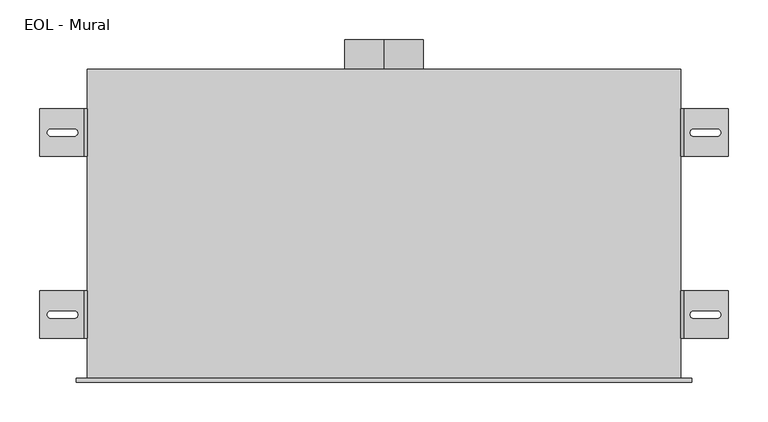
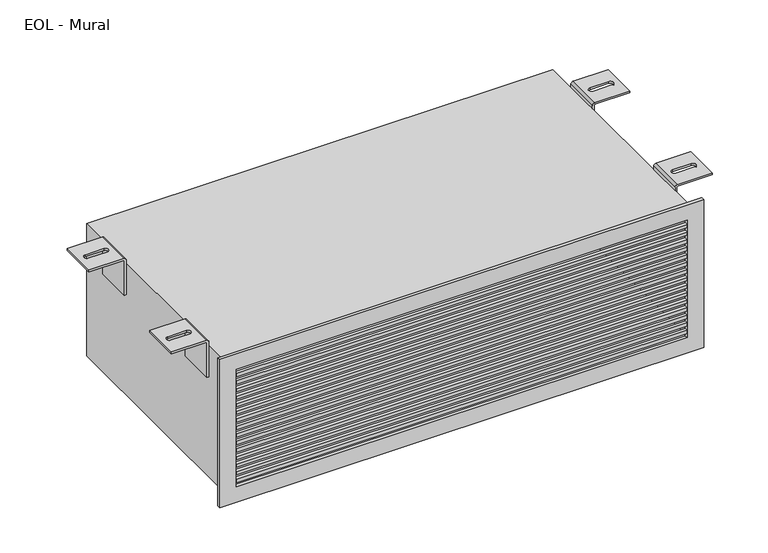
"""IFC4 building model written with IfcOpenShell, lengths in millimetres: air terminal geometry, EOL - Mural : EOL-M100-750x225-2."""

from ifc_helpers import new_model, si_unit, point, frame, origin, origin_2d, place, context, project, spatial, polyline, circle_curve, ellipse_curve, trimmed, segment, composite_curve, outline, extrude, source, transform, mapped, element, save
from ifc_brep_helpers import plane_surface, cylinder_surface, revolved_surface, extruded_surface, advanced_brep


def eol_mural_11de79c1(model_context):
    return source(origin(), model_context, "Body", "SolidModel", [
        advanced_brep(
        [(379.0013366, 110.0, 121.5), (435.0, 110.0, 121.5), (435.0, 110.0, 118.5), (379.0, 110.0, 118.5), (378.0, 110.0, 117.5), (378.0, 110.0, 58.5), (375.0, 110.0, 58.5), (375.0, 110.0, 117.4986634), (379.0013366, 50.0, 121.5), (375.0, 50.0, 117.4986634), (375.0, 50.0, 58.5), (378.0, 50.0, 58.5), (378.0, 50.0, 117.5), (379.0, 50.0, 118.5), (435.0, 50.0, 118.5), (435.0, 50.0, 121.5), (421.0287952, 75.4804328, 121.5), (391.0287952, 75.4804328, 121.5), (391.0287952, 84.4804328, 121.5), (421.0287952, 84.4804328, 121.5), (391.0287952, 75.4804328, 118.5), (421.0287952, 75.4804328, 118.5), (421.0287952, 84.4804328, 118.5), (391.0287952, 84.4804328, 118.5)],
        [
            (0, 1),
            (1, 2),
            (2, 3),
            (3, 4, circle_curve(frame((379.0, 110.0, 117.5), z_axis=(0.0, -1.0, 0.0), x_axis=(-1.0000000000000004, 0.0, 0.0)), 1.0)),
            (4, 5),
            (5, 6),
            (6, 7),
            (7, 0, circle_curve(frame((379.0013366, 110.0, 117.4986634), z_axis=(0.0, 1.0, 0.0), x_axis=(-1.0000000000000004, 0.0, 0.0)), 4.0013366)),
            (8, 9, circle_curve(frame((379.0013366, 50.0, 117.4986634), z_axis=(0.0, -1.0, 0.0), x_axis=(-1.0000000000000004, 0.0, 0.0)), 4.0013366)),
            (9, 10),
            (10, 11),
            (11, 12),
            (12, 13, circle_curve(frame((379.0, 50.0, 117.5), z_axis=(0.0, 1.0, 0.0), x_axis=(-1.0000000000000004, 0.0, 0.0)), 1.0)),
            (13, 14),
            (14, 15),
            (15, 8),
            (0, 8),
            (15, 1),
            (16, 17),
            (17, 18, circle_curve(frame((391.0287952, 79.9804328, 121.5), z_axis=(0.0, 0.0, -1.0), x_axis=(0.0, -1.0, 0.0)), 4.5)),
            (18, 19),
            (19, 16, circle_curve(frame((421.0287952, 79.9804328, 121.5), z_axis=(0.0, 0.0, -1.0), x_axis=(0.0, -1.0, 0.0)), 4.5)),
            (14, 2),
            (13, 3),
            (20, 21),
            (21, 22, ellipse_curve(frame((421.0287952, 79.9804328, 118.5), z_axis=(0.0, 0.0, 1.0), x_axis=(0.0, -1.0, 0.0)), 4.5, 4.5)),
            (22, 23),
            (23, 20, ellipse_curve(frame((391.0287952, 79.9804328, 118.5), z_axis=(0.0, 0.0, 1.0), x_axis=(0.0, -1.0, 0.0)), 4.5, 4.5)),
            (12, 4),
            (11, 5),
            (10, 6),
            (9, 7),
            (16, 21),
            (20, 17),
            (19, 22),
            (18, 23),
        ],
        [
            plane_surface(frame((435.0, 110.0, 121.5), z_axis=(0.0, 1.0, 0.0), x_axis=(1.0, 0.0, 0.0))),
            plane_surface(frame((435.0, 50.0, 121.5), z_axis=(0.0, -1.0, 0.0), x_axis=(-1.0, 0.0, 0.0))),
            plane_surface(frame((379.0013366, 110.0, 121.5), z_axis=(0.0, 0.0, 1.0), x_axis=(0.0, -1.0, 0.0))),
            plane_surface(frame((435.0, 110.0, 121.5), z_axis=(1.0, 0.0, 0.0), x_axis=(0.0, -1.0, 0.0))),
            plane_surface(frame((435.0, 110.0, 118.5), z_axis=(0.0, 0.0, -1.0), x_axis=(0.0, -1.0, 0.0))),
            revolved_surface(polyline([(378.0, 50.0, 117.5), (378.0, 110.00000000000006, 117.5)]), (379.0, 50.0, 117.5), (0.0, -1.0000000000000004, 0.0)),
            plane_surface(frame((378.0, 110.0, 117.5), z_axis=(1.0, 0.0, 0.0), x_axis=(0.0, -1.0, 0.0))),
            plane_surface(frame((378.0, 110.0, 58.5), z_axis=(0.0, 0.0, -1.0), x_axis=(0.0, -1.0, 0.0))),
            plane_surface(frame((375.0, 110.0, 58.5), z_axis=(-1.0, 0.0, 0.0), x_axis=(0.0, -1.0, 0.0))),
            cylinder_surface(frame((379.0013366, 50.0, 117.4986634), z_axis=(0.0, 1.0000000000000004, 0.0), x_axis=(-1.0000000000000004, 0.0, 0.0)), 4.0013366),
            plane_surface(frame((391.0287952, 75.4804328, 121.5), z_axis=(0.0, 1.0, 0.0), x_axis=(0.0, 0.0, -1.0))),
            extruded_surface(trimmed(ellipse_curve(frame((421.0287952, 79.9804328, 118.5), z_axis=(0.0, 0.0, 1.0), x_axis=(0.0, -1.0, 0.0)), 4.5, 4.5), [point((421.0287952, 75.4804328, 118.5))], [point((421.0287952, 84.4804328, 118.5))], True, "CARTESIAN"), (0.0, 0.0, -3.0), 3.0),
            plane_surface(frame((421.0287952, 84.4804328, 121.5), z_axis=(0.0, -1.0, 0.0), x_axis=(0.0, 0.0, -1.0))),
            extruded_surface(trimmed(ellipse_curve(frame((391.0287952, 79.9804328, 118.5), z_axis=(0.0, 0.0, 1.0), x_axis=(0.0, -1.0, 0.0)), 4.5, 4.5), [point((391.0287952, 84.4804328, 118.5))], [point((391.0287952, 75.4804328, 118.5))], True, "CARTESIAN"), (0.0, 0.0, -3.0), 3.0),
        ],
        [
            (0, [[1, 2, 3, 4, 5, 6, 7, 8]]),
            (1, [[9, 10, 11, 12, 13, 14, 15, 16]]),
            (2, [[-1, 17, -16, 18], [19, 20, 21, 22]]),
            (3, [[-2, -18, -15, 23]]),
            (4, [[-3, -23, -14, 24], [25, 26, 27, 28]]),
            (5, [[-4, -24, -13, 29]]),
            (6, [[-5, -29, -12, 30]]),
            (7, [[-6, -30, -11, 31]]),
            (8, [[-7, -31, -10, 32]]),
            (9, [[-8, -32, -9, -17]]),
            (10, [[33, -25, 34, -19]]),
            (11, [[-33, -22, 35, -26]]),
            (12, [[-35, -21, 36, -27]]),
            (13, [[-34, -28, -36, -20]]),
        ],
    ),
        advanced_brep(
        [(379.0013366, 340.0, 121.5), (435.0, 340.0, 121.5), (435.0, 340.0, 118.5), (379.0, 340.0, 118.5), (378.0, 340.0, 117.5), (378.0, 340.0, 58.5), (375.0, 340.0, 58.5), (375.0, 340.0, 117.4986634), (379.0013366, 280.0, 121.5), (375.0, 280.0, 117.4986634), (375.0, 280.0, 58.5), (378.0, 280.0, 58.5), (378.0, 280.0, 117.5), (379.0, 280.0, 118.5), (435.0, 280.0, 118.5), (435.0, 280.0, 121.5), (421.0287952, 305.4804328, 121.5), (391.0287952, 305.4804328, 121.5), (391.0287952, 314.4804328, 121.5), (421.0287952, 314.4804328, 121.5), (391.0287952, 305.4804328, 118.5), (421.0287952, 305.4804328, 118.5), (421.0287952, 314.4804328, 118.5), (391.0287952, 314.4804328, 118.5)],
        [
            (0, 1),
            (1, 2),
            (2, 3),
            (3, 4, circle_curve(frame((379.0, 340.0, 117.5), z_axis=(0.0, -1.0, 0.0), x_axis=(-1.0, 0.0, 0.0)), 1.0)),
            (4, 5),
            (5, 6),
            (6, 7),
            (7, 0, circle_curve(frame((379.0013366, 340.0, 117.4986634), z_axis=(0.0, 1.0, 0.0), x_axis=(-1.0, 0.0, 0.0)), 4.0013366)),
            (8, 9, circle_curve(frame((379.0013366, 280.0, 117.4986634), z_axis=(0.0, -1.0, 0.0), x_axis=(-1.0, 0.0, 0.0)), 4.0013366)),
            (9, 10),
            (10, 11),
            (11, 12),
            (12, 13, circle_curve(frame((379.0, 280.0, 117.5), z_axis=(0.0, 1.0, 0.0), x_axis=(-1.0, 0.0, 0.0)), 1.0)),
            (13, 14),
            (14, 15),
            (15, 8),
            (0, 8),
            (15, 1),
            (16, 17),
            (17, 18, circle_curve(frame((391.0287952, 309.9804328, 121.5), z_axis=(0.0, 0.0, -1.0), x_axis=(0.0, -1.0, 0.0)), 4.5)),
            (18, 19),
            (19, 16, circle_curve(frame((421.0287952, 309.9804328, 121.5), z_axis=(0.0, 0.0, -1.0), x_axis=(0.0, -1.0, 0.0)), 4.5)),
            (14, 2),
            (13, 3),
            (20, 21),
            (21, 22, ellipse_curve(frame((421.0287952, 309.9804328, 118.5), z_axis=(0.0, 0.0, 1.0), x_axis=(0.0, -1.0, 0.0)), 4.5, 4.5)),
            (22, 23),
            (23, 20, ellipse_curve(frame((391.0287952, 309.9804328, 118.5), z_axis=(0.0, 0.0, 1.0), x_axis=(0.0, -1.0, 0.0)), 4.5, 4.5)),
            (12, 4),
            (11, 5),
            (10, 6),
            (9, 7),
            (16, 21),
            (20, 17),
            (19, 22),
            (18, 23),
        ],
        [
            plane_surface(frame((435.0, 340.0, 121.5), z_axis=(0.0, 1.0, 0.0), x_axis=(1.0, 0.0, 0.0))),
            plane_surface(frame((435.0, 280.0, 121.5), z_axis=(0.0, -1.0, 0.0), x_axis=(-1.0, 0.0, 0.0))),
            plane_surface(frame((379.0013366, 340.0, 121.5), z_axis=(0.0, 0.0, 1.0), x_axis=(0.0, -1.0, 0.0))),
            plane_surface(frame((435.0, 340.0, 121.5), z_axis=(1.0, 0.0, 0.0), x_axis=(0.0, -1.0, 0.0))),
            plane_surface(frame((435.0, 340.0, 118.5), z_axis=(0.0, 0.0, -1.0), x_axis=(0.0, -1.0, 0.0))),
            revolved_surface(polyline([(378.0, 280.0, 117.5), (378.0, 340.0, 117.5)]), (379.0, 280.0, 117.5), (0.0, -1.0, 0.0)),
            plane_surface(frame((378.0, 340.0, 117.5), z_axis=(1.0, 0.0, 0.0), x_axis=(0.0, -1.0, 0.0))),
            plane_surface(frame((378.0, 340.0, 58.5), z_axis=(0.0, 0.0, -1.0), x_axis=(0.0, -1.0, 0.0))),
            plane_surface(frame((375.0, 340.0, 58.5), z_axis=(-1.0, 0.0, 0.0), x_axis=(0.0, -1.0, 0.0))),
            cylinder_surface(frame((379.0013366, 280.0, 117.4986634), z_axis=(0.0, 1.0, 0.0), x_axis=(-1.0, 0.0, 0.0)), 4.0013366),
            plane_surface(frame((391.0287952, 305.4804328, 121.5), z_axis=(0.0, 1.0, 0.0), x_axis=(0.0, 0.0, -1.0))),
            extruded_surface(trimmed(ellipse_curve(frame((421.0287952, 309.9804328, 118.5), z_axis=(0.0, 0.0, 1.0), x_axis=(0.0, -1.0, 0.0)), 4.5, 4.5), [point((421.0287952, 305.4804328, 118.5))], [point((421.0287952, 314.4804328, 118.5))], True, "CARTESIAN"), (0.0, 0.0, -3.0), 3.0),
            plane_surface(frame((421.0287952, 314.4804328, 121.5), z_axis=(0.0, -1.0, 0.0), x_axis=(0.0, 0.0, -1.0))),
            extruded_surface(trimmed(ellipse_curve(frame((391.0287952, 309.9804328, 118.5), z_axis=(0.0, 0.0, 1.0), x_axis=(0.0, -1.0, 0.0)), 4.5, 4.5), [point((391.0287952, 314.4804328, 118.5))], [point((391.0287952, 305.4804328, 118.5))], True, "CARTESIAN"), (0.0, 0.0, -3.0), 3.0),
        ],
        [
            (0, [[1, 2, 3, 4, 5, 6, 7, 8]]),
            (1, [[9, 10, 11, 12, 13, 14, 15, 16]]),
            (2, [[-1, 17, -16, 18], [19, 20, 21, 22]]),
            (3, [[-2, -18, -15, 23]]),
            (4, [[-3, -23, -14, 24], [25, 26, 27, 28]]),
            (5, [[-4, -24, -13, 29]]),
            (6, [[-5, -29, -12, 30]]),
            (7, [[-6, -30, -11, 31]]),
            (8, [[-7, -31, -10, 32]]),
            (9, [[-8, -32, -9, -17]]),
            (10, [[33, -25, 34, -19]]),
            (11, [[-33, -22, 35, -26]]),
            (12, [[-35, -21, 36, -27]]),
            (13, [[-34, -28, -36, -20]]),
        ],
    ),
        advanced_brep(
        [(-379.0013366, 50.0, 121.5), (-435.0, 50.0, 121.5), (-435.0, 50.0, 118.5), (-379.0, 50.0, 118.5), (-378.0, 50.0, 117.5), (-378.0, 50.0, 58.5), (-375.0, 50.0, 58.5), (-375.0, 50.0, 117.4986634), (-379.0013366, 110.0, 121.5), (-375.0, 110.0, 117.4986634), (-375.0, 110.0, 58.5), (-378.0, 110.0, 58.5), (-378.0, 110.0, 117.5), (-379.0, 110.0, 118.5), (-435.0, 110.0, 118.5), (-435.0, 110.0, 121.5), (-421.0287952, 84.5195672, 121.5), (-391.0287952, 84.5195672, 121.5), (-391.0287952, 75.5195672, 121.5), (-421.0287952, 75.5195672, 121.5), (-391.0287952, 84.5195672, 118.5), (-421.0287952, 84.5195672, 118.5), (-421.0287952, 75.5195672, 118.5), (-391.0287952, 75.5195672, 118.5)],
        [
            (0, 1),
            (1, 2),
            (2, 3),
            (3, 4, circle_curve(frame((-379.0, 50.0, 117.5), z_axis=(0.0, 1.0, 0.0), x_axis=(1.0, 0.0, 0.0)), 1.0)),
            (4, 5),
            (5, 6),
            (6, 7),
            (7, 0, circle_curve(frame((-379.0013366, 50.0, 117.4986634), z_axis=(0.0, -1.0, 0.0), x_axis=(1.0, 0.0, 0.0)), 4.0013366)),
            (8, 9, circle_curve(frame((-379.0013366, 110.0, 117.4986634), z_axis=(0.0, 1.0, 0.0), x_axis=(1.0, 0.0, 0.0)), 4.0013366)),
            (9, 10),
            (10, 11),
            (11, 12),
            (12, 13, circle_curve(frame((-379.0, 110.0, 117.5), z_axis=(0.0, -1.0, 0.0), x_axis=(1.0, 0.0, 0.0)), 1.0)),
            (13, 14),
            (14, 15),
            (15, 8),
            (0, 8),
            (15, 1),
            (16, 17),
            (17, 18, circle_curve(frame((-391.0287952, 80.0195672, 121.5), z_axis=(0.0, 0.0, -1.0), x_axis=(0.0, 1.0, 0.0)), 4.5)),
            (18, 19),
            (19, 16, circle_curve(frame((-421.0287952, 80.0195672, 121.5), z_axis=(0.0, 0.0, -1.0), x_axis=(0.0, 1.0, 0.0)), 4.5)),
            (14, 2),
            (13, 3),
            (20, 21),
            (21, 22, ellipse_curve(frame((-421.0287952, 80.0195672, 118.5), z_axis=(0.0, 0.0, 1.0), x_axis=(0.0, 1.0, 0.0)), 4.5, 4.5)),
            (22, 23),
            (23, 20, ellipse_curve(frame((-391.0287952, 80.0195672, 118.5), z_axis=(0.0, 0.0, 1.0), x_axis=(0.0, 1.0, 0.0)), 4.5, 4.5)),
            (12, 4),
            (11, 5),
            (10, 6),
            (9, 7),
            (16, 21),
            (20, 17),
            (19, 22),
            (18, 23),
        ],
        [
            plane_surface(frame((-435.0, 50.0, 121.5), z_axis=(0.0, -1.0, 0.0), x_axis=(-1.0, 0.0, 0.0))),
            plane_surface(frame((-435.0, 110.0, 121.5), z_axis=(0.0, 1.0, 0.0), x_axis=(1.0, 0.0, 0.0))),
            plane_surface(frame((-379.0013366, 50.0, 121.5), z_axis=(0.0, 0.0, 1.0), x_axis=(0.0, 1.0, 0.0))),
            plane_surface(frame((-435.0, 50.0, 121.5), z_axis=(-1.0, 0.0, 0.0), x_axis=(0.0, 1.0, 0.0))),
            plane_surface(frame((-435.0, 50.0, 118.5), z_axis=(0.0, 0.0, -1.0), x_axis=(0.0, 1.0, 0.0))),
            revolved_surface(polyline([(-378.0, 110.0, 117.5), (-378.0, 50.0, 117.5)]), (-379.0, 110.0, 117.5), (0.0, 1.0, 0.0)),
            plane_surface(frame((-378.0, 50.0, 117.5), z_axis=(-1.0, 0.0, 0.0), x_axis=(0.0, 1.0, 0.0))),
            plane_surface(frame((-378.0, 50.0, 58.5), z_axis=(0.0, 0.0, -1.0), x_axis=(0.0, 1.0, 0.0))),
            plane_surface(frame((-375.0, 50.0, 58.5), z_axis=(1.0, 0.0, 0.0), x_axis=(0.0, 1.0, 0.0))),
            cylinder_surface(frame((-379.0013366, 110.0, 117.4986634), z_axis=(0.0, -1.0, 0.0), x_axis=(1.0, 0.0, 0.0)), 4.0013366),
            plane_surface(frame((-391.0287952, 84.5195672, 121.5), z_axis=(0.0, -1.0, 0.0), x_axis=(0.0, 0.0, -1.0))),
            extruded_surface(trimmed(ellipse_curve(frame((-421.0287952, 80.0195672, 118.5), z_axis=(0.0, 0.0, 1.0), x_axis=(0.0, 1.0, 0.0)), 4.5, 4.5), [point((-421.0287952, 84.5195672, 118.5))], [point((-421.0287952, 75.5195672, 118.5))], True, "CARTESIAN"), (0.0, 0.0, -3.0), 3.0),
            plane_surface(frame((-421.0287952, 75.5195672, 121.5), z_axis=(0.0, 1.0, 0.0), x_axis=(0.0, 0.0, -1.0))),
            extruded_surface(trimmed(ellipse_curve(frame((-391.0287952, 80.0195672, 118.5), z_axis=(0.0, 0.0, 1.0), x_axis=(0.0, 1.0, 0.0)), 4.5, 4.5), [point((-391.0287952, 75.5195672, 118.5))], [point((-391.0287952, 84.5195672, 118.5))], True, "CARTESIAN"), (0.0, 0.0, -3.0), 3.0),
        ],
        [
            (0, [[1, 2, 3, 4, 5, 6, 7, 8]]),
            (1, [[9, 10, 11, 12, 13, 14, 15, 16]]),
            (2, [[-1, 17, -16, 18], [19, 20, 21, 22]]),
            (3, [[-2, -18, -15, 23]]),
            (4, [[-3, -23, -14, 24], [25, 26, 27, 28]]),
            (5, [[-4, -24, -13, 29]]),
            (6, [[-5, -29, -12, 30]]),
            (7, [[-6, -30, -11, 31]]),
            (8, [[-7, -31, -10, 32]]),
            (9, [[-8, -32, -9, -17]]),
            (10, [[33, -25, 34, -19]]),
            (11, [[-33, -22, 35, -26]]),
            (12, [[-35, -21, 36, -27]]),
            (13, [[-34, -28, -36, -20]]),
        ],
    ),
        advanced_brep(
        [(-379.0013366, 280.0, 121.5), (-435.0, 280.0, 121.5), (-435.0, 280.0, 118.5), (-379.0, 280.0, 118.5), (-378.0, 280.0, 117.5), (-378.0, 280.0, 58.5), (-375.0, 280.0, 58.5), (-375.0, 280.0, 117.4986634), (-379.0013366, 340.0, 121.5), (-375.0, 340.0, 117.4986634), (-375.0, 340.0, 58.5), (-378.0, 340.0, 58.5), (-378.0, 340.0, 117.5), (-379.0, 340.0, 118.5), (-435.0, 340.0, 118.5), (-435.0, 340.0, 121.5), (-421.0287952, 314.5195672, 121.5), (-391.0287952, 314.5195672, 121.5), (-391.0287952, 305.5195672, 121.5), (-421.0287952, 305.5195672, 121.5), (-391.0287952, 314.5195672, 118.5), (-421.0287952, 314.5195672, 118.5), (-421.0287952, 305.5195672, 118.5), (-391.0287952, 305.5195672, 118.5)],
        [
            (0, 1),
            (1, 2),
            (2, 3),
            (3, 4, circle_curve(frame((-379.0, 280.0, 117.5), z_axis=(0.0, 1.0, 0.0), x_axis=(1.0, 0.0, 0.0)), 1.0)),
            (4, 5),
            (5, 6),
            (6, 7),
            (7, 0, circle_curve(frame((-379.0013366, 280.0, 117.4986634), z_axis=(0.0, -1.0, 0.0), x_axis=(1.0, 0.0, 0.0)), 4.0013366)),
            (8, 9, circle_curve(frame((-379.0013366, 340.0, 117.4986634), z_axis=(0.0, 1.0, 0.0), x_axis=(1.0, 0.0, 0.0)), 4.0013366)),
            (9, 10),
            (10, 11),
            (11, 12),
            (12, 13, circle_curve(frame((-379.0, 340.0, 117.5), z_axis=(0.0, -1.0, 0.0), x_axis=(1.0, 0.0, 0.0)), 1.0)),
            (13, 14),
            (14, 15),
            (15, 8),
            (0, 8),
            (15, 1),
            (16, 17),
            (17, 18, circle_curve(frame((-391.0287952, 310.0195672, 121.5), z_axis=(0.0, 0.0, -1.0), x_axis=(0.0, 1.0, 0.0)), 4.5)),
            (18, 19),
            (19, 16, circle_curve(frame((-421.0287952, 310.0195672, 121.5), z_axis=(0.0, 0.0, -1.0), x_axis=(0.0, 1.0, 0.0)), 4.5)),
            (14, 2),
            (13, 3),
            (20, 21),
            (21, 22, ellipse_curve(frame((-421.0287952, 310.0195672, 118.5), z_axis=(0.0, 0.0, 1.0), x_axis=(0.0, 1.0, 0.0)), 4.5, 4.5)),
            (22, 23),
            (23, 20, ellipse_curve(frame((-391.0287952, 310.0195672, 118.5), z_axis=(0.0, 0.0, 1.0), x_axis=(0.0, 1.0, 0.0)), 4.5, 4.5)),
            (12, 4),
            (11, 5),
            (10, 6),
            (9, 7),
            (16, 21),
            (20, 17),
            (19, 22),
            (18, 23),
        ],
        [
            plane_surface(frame((-435.0, 280.0, 121.5), z_axis=(0.0, -1.0, 0.0), x_axis=(-1.0, 0.0, 0.0))),
            plane_surface(frame((-435.0, 340.0, 121.5), z_axis=(0.0, 1.0, 0.0), x_axis=(1.0, 0.0, 0.0))),
            plane_surface(frame((-379.0013366, 280.0, 121.5), z_axis=(0.0, 0.0, 1.0), x_axis=(0.0, 1.0, 0.0))),
            plane_surface(frame((-435.0, 280.0, 121.5), z_axis=(-1.0, 0.0, 0.0), x_axis=(0.0, 1.0, 0.0))),
            plane_surface(frame((-435.0, 280.0, 118.5), z_axis=(0.0, 0.0, -1.0), x_axis=(0.0, 1.0, 0.0))),
            revolved_surface(polyline([(-378.0, 340.0, 117.5), (-378.0, 280.0, 117.5)]), (-379.0, 340.0, 117.5), (0.0, 1.0, 0.0)),
            plane_surface(frame((-378.0, 280.0, 117.5), z_axis=(-1.0, 0.0, 0.0), x_axis=(0.0, 1.0, 0.0))),
            plane_surface(frame((-378.0, 280.0, 58.5), z_axis=(0.0, 0.0, -1.0), x_axis=(0.0, 1.0, 0.0))),
            plane_surface(frame((-375.0, 280.0, 58.5), z_axis=(1.0, 0.0, 0.0), x_axis=(0.0, 1.0, 0.0))),
            cylinder_surface(frame((-379.0013366, 340.0, 117.4986634), z_axis=(0.0, -1.0, 0.0), x_axis=(1.0, 0.0, 0.0)), 4.0013366),
            plane_surface(frame((-391.0287952, 314.5195672, 121.5), z_axis=(0.0, -1.0, 0.0), x_axis=(0.0, 0.0, -1.0))),
            extruded_surface(trimmed(ellipse_curve(frame((-421.0287952, 310.0195672, 118.5), z_axis=(0.0, 0.0, 1.0), x_axis=(0.0, 1.0, 0.0)), 4.5, 4.5), [point((-421.0287952, 314.5195672, 118.5))], [point((-421.0287952, 305.5195672, 118.5))], True, "CARTESIAN"), (0.0, 0.0, -3.0), 3.0),
            plane_surface(frame((-421.0287952, 305.5195672, 121.5), z_axis=(0.0, 1.0, 0.0), x_axis=(0.0, 0.0, -1.0))),
            extruded_surface(trimmed(ellipse_curve(frame((-391.0287952, 310.0195672, 118.5), z_axis=(0.0, 0.0, 1.0), x_axis=(0.0, 1.0, 0.0)), 4.5, 4.5), [point((-391.0287952, 305.5195672, 118.5))], [point((-391.0287952, 314.5195672, 118.5))], True, "CARTESIAN"), (0.0, 0.0, -3.0), 3.0),
        ],
        [
            (0, [[1, 2, 3, 4, 5, 6, 7, 8]]),
            (1, [[9, 10, 11, 12, 13, 14, 15, 16]]),
            (2, [[-1, 17, -16, 18], [19, 20, 21, 22]]),
            (3, [[-2, -18, -15, 23]]),
            (4, [[-3, -23, -14, 24], [25, 26, 27, 28]]),
            (5, [[-4, -24, -13, 29]]),
            (6, [[-5, -29, -12, 30]]),
            (7, [[-6, -30, -11, 31]]),
            (8, [[-7, -31, -10, 32]]),
            (9, [[-8, -32, -9, -17]]),
            (10, [[33, -25, 34, -19]]),
            (11, [[-33, -22, 35, -26]]),
            (12, [[-35, -21, 36, -27]]),
            (13, [[-34, -28, -36, -20]]),
        ],
    ),
        extrude(outline(composite_curve([segment(trimmed(circle_curve(origin_2d(), 50.0), [point((-50.0, 0.0))], [point((50.0, 0.0))], False, "CARTESIAN"), True, "CONTINUOUS"), segment(trimmed(circle_curve(origin_2d(), 50.0), [point((50.0, 0.0))], [point((-50.0, 0.0))], False, "CARTESIAN"), True, "CONTINUOUS")], self_intersect=False), holes=[composite_curve([segment(trimmed(circle_curve(origin_2d(), 49.0), [point((0.0, 49.0))], [point((0.0, -49.0))], True, "CARTESIAN"), True, "CONTINUOUS"), segment(trimmed(circle_curve(origin_2d(), 49.0), [point((0.0, -49.0))], [point((0.0, 49.0))], True, "CARTESIAN"), True, "CONTINUOUS")], self_intersect=False)]), frame((0.0, 390.0, 0.0), z_axis=(0.0, 1.0, 0.0), x_axis=(0.0, 0.0, 1.0)), (0.0, 0.0, 1.0), 37.5),
        extrude(outline(polyline([(362.5, 0.0), (362.5, -5.0), (-362.5, -5.0), (-362.5, 0.0), (362.5, 0.0)])), frame((0.0, 0.0, 87.15), z_axis=(0.0, 0.0, 1.0), x_axis=(1.0, 0.0, 0.0)), (0.0, 0.0, 1.0), 5.6),
        extrude(outline(polyline([(362.5, 0.0), (362.5, -5.0), (-362.5, -5.0), (-362.5, 0.0), (362.5, 0.0)])), frame((0.0, 0.0, 74.3), z_axis=(0.0, 0.0, 1.0), x_axis=(1.0, 0.0, 0.0)), (0.0, 0.0, 1.0), 5.6),
        extrude(outline(polyline([(362.5, 0.0), (362.5, -5.0), (-362.5, -5.0), (-362.5, 0.0), (362.5, 0.0)])), frame((0.0, 0.0, 61.45), z_axis=(0.0, 0.0, 1.0), x_axis=(1.0, 0.0, 0.0)), (0.0, 0.0, 1.0), 5.6),
        extrude(outline(polyline([(362.5, 0.0), (362.5, -5.0), (-362.5, -5.0), (-362.5, 0.0), (362.5, 0.0)])), frame((0.0, 0.0, 48.6), z_axis=(0.0, 0.0, 1.0), x_axis=(1.0, 0.0, 0.0)), (0.0, 0.0, 1.0), 5.6),
        extrude(outline(polyline([(362.5, 0.0), (362.5, -5.0), (-362.5, -5.0), (-362.5, 0.0), (362.5, 0.0)])), frame((0.0, 0.0, 35.75), z_axis=(0.0, 0.0, 1.0), x_axis=(1.0, 0.0, 0.0)), (0.0, 0.0, 1.0), 5.6),
        extrude(outline(polyline([(362.5, 0.0), (362.5, -5.0), (-362.5, -5.0), (-362.5, 0.0), (362.5, 0.0)])), frame((0.0, 0.0, 22.9), z_axis=(0.0, 0.0, 1.0), x_axis=(1.0, 0.0, 0.0)), (0.0, 0.0, 1.0), 5.6),
        extrude(outline(polyline([(362.5, 0.0), (362.5, -5.0), (-362.5, -5.0), (-362.5, 0.0), (362.5, 0.0)])), frame((0.0, 0.0, 10.05), z_axis=(0.0, 0.0, 1.0), x_axis=(1.0, 0.0, 0.0)), (0.0, 0.0, 1.0), 5.6),
        extrude(outline(polyline([(362.5, 0.0), (362.5, -5.0), (-362.5, -5.0), (-362.5, 0.0), (362.5, 0.0)])), frame((0.0, 0.0, -2.8), z_axis=(0.0, 0.0, 1.0), x_axis=(1.0, 0.0, 0.0)), (0.0, 0.0, 1.0), 5.6),
        extrude(outline(polyline([(362.5, 0.0), (362.5, -5.0), (-362.5, -5.0), (-362.5, 0.0), (362.5, 0.0)])), frame((0.0, 0.0, -15.65), z_axis=(0.0, 0.0, 1.0), x_axis=(1.0, 0.0, 0.0)), (0.0, 0.0, 1.0), 5.6),
        extrude(outline(polyline([(362.5, 0.0), (362.5, -5.0), (-362.5, -5.0), (-362.5, 0.0), (362.5, 0.0)])), frame((0.0, 0.0, -28.5), z_axis=(0.0, 0.0, 1.0), x_axis=(1.0, 0.0, 0.0)), (0.0, 0.0, 1.0), 5.6),
        extrude(outline(polyline([(362.5, 0.0), (362.5, -5.0), (-362.5, -5.0), (-362.5, 0.0), (362.5, 0.0)])), frame((0.0, 0.0, -41.35), z_axis=(0.0, 0.0, 1.0), x_axis=(1.0, 0.0, 0.0)), (0.0, 0.0, 1.0), 5.6),
        extrude(outline(polyline([(362.5, 0.0), (362.5, -5.0), (-362.5, -5.0), (-362.5, 0.0), (362.5, 0.0)])), frame((0.0, 0.0, -54.2), z_axis=(0.0, 0.0, 1.0), x_axis=(1.0, 0.0, 0.0)), (0.0, 0.0, 1.0), 5.6),
        extrude(outline(polyline([(362.5, 0.0), (362.5, -5.0), (-362.5, -5.0), (-362.5, 0.0), (362.5, 0.0)])), frame((0.0, 0.0, -67.05), z_axis=(0.0, 0.0, 1.0), x_axis=(1.0, 0.0, 0.0)), (0.0, 0.0, 1.0), 5.6),
        extrude(outline(polyline([(362.5, 0.0), (362.5, -5.0), (-362.5, -5.0), (-362.5, 0.0), (362.5, 0.0)])), frame((0.0, 0.0, -79.9), z_axis=(0.0, 0.0, 1.0), x_axis=(1.0, 0.0, 0.0)), (0.0, 0.0, 1.0), 5.6),
        extrude(outline(polyline([(362.5, 0.0), (362.5, -5.0), (-362.5, -5.0), (-362.5, 0.0), (362.5, 0.0)])), frame((0.0, 0.0, -92.75), z_axis=(0.0, 0.0, 1.0), x_axis=(1.0, 0.0, 0.0)), (0.0, 0.0, 1.0), 5.6),
        extrude(outline(polyline([(126.0, 389.0), (126.0, -389.0), (-126.0, -389.0), (-126.0, 389.0), (126.0, 389.0)]), holes=[polyline([(100.0, 362.5), (-100.0, 362.5), (-100.0, -362.5), (100.0, -362.5), (100.0, 362.5)])]), frame((0.0, -5.0, 0.0), z_axis=(0.0, 1.0, 0.0), x_axis=(0.0, 0.0, 1.0)), (0.0, 0.0, 1.0), 5.0),
        advanced_brep(
        [(375.0, 390.0, 112.5), (-375.0, 390.0, 112.5), (-375.0, 0.0, 112.5), (375.0, 0.0, 112.5), (375.0, 390.0, -112.5), (375.0, 0.0, -112.5), (-375.0, 0.0, -112.5), (-375.0, 390.0, -112.5), (-49.0, 390.0, 0.0), (49.0, 390.0, 0.0), (-370.0, 0.0, 107.5), (370.0, 0.0, 107.5), (370.0, 0.0, -107.5), (-370.0, 0.0, -107.5), (370.0, 385.0, 107.5), (-370.0, 385.0, 107.5), (370.0, 385.0, -107.5), (-370.0, 385.0, -107.5), (49.0, 385.0, 0.0), (-49.0, 385.0, 0.0)],
        [
            (0, 1),
            (1, 2),
            (2, 3),
            (3, 0),
            (4, 5),
            (5, 6),
            (6, 7),
            (7, 4),
            (0, 4),
            (7, 1),
            (8, 9, circle_curve(frame((0.0, 390.0, 0.0), z_axis=(0.0, -1.0, 0.0), x_axis=(1.0, 0.0, 0.0)), 49.0)),
            (9, 8, circle_curve(frame((0.0, 390.0, 0.0), z_axis=(0.0, -1.0, 0.0), x_axis=(1.0, 0.0, 0.0)), 49.0)),
            (6, 2),
            (5, 3),
            (10, 11),
            (11, 12),
            (12, 13),
            (13, 10),
            (14, 11),
            (10, 15),
            (15, 14),
            (16, 17),
            (17, 13),
            (12, 16),
            (15, 17),
            (16, 14),
            (18, 19, circle_curve(frame((0.0, 385.0, 0.0), z_axis=(0.0, 1.0, 0.0), x_axis=(1.0, 0.0, 0.0)), 49.0)),
            (19, 18, circle_curve(frame((0.0, 385.0, 0.0), z_axis=(0.0, 1.0, 0.0), x_axis=(1.0, 0.0, 0.0)), 49.0)),
            (8, 19),
            (18, 9),
        ],
        [
            plane_surface(frame((-375.0, 390.0, 112.5), z_axis=(0.0, 0.0, 1.0), x_axis=(-1.0, 0.0, 0.0))),
            plane_surface(frame((-375.0, 390.0, -112.5), z_axis=(0.0, 0.0, -1.0), x_axis=(1.0, 0.0, 0.0))),
            plane_surface(frame((375.0, 390.0, 112.5), z_axis=(0.0, 1.0, 0.0), x_axis=(0.0, 0.0, -1.0))),
            plane_surface(frame((-375.0, 390.0, 112.5), z_axis=(-1.0, 0.0, 0.0), x_axis=(0.0, 0.0, -1.0))),
            plane_surface(frame((-375.0, 0.0, 112.5), z_axis=(0.0, -1.0, 0.0), x_axis=(0.0, 0.0, -1.0))),
            plane_surface(frame((375.0, 0.0, 112.5), z_axis=(1.0, 0.0, 0.0), x_axis=(0.0, 0.0, -1.0))),
            plane_surface(frame((-370.0, 385.0, 107.5), z_axis=(0.0, 0.0, -1.0), x_axis=(-1.0, 0.0, 0.0))),
            plane_surface(frame((-370.0, 385.0, -107.5), z_axis=(0.0, 0.0, 1.0), x_axis=(1.0, 0.0, 0.0))),
            plane_surface(frame((370.0, 385.0, 107.5), z_axis=(0.0, -1.0, 0.0), x_axis=(0.0, 0.0, -1.0))),
            plane_surface(frame((-370.0, 385.0, 107.5), z_axis=(1.0, 0.0, 0.0), x_axis=(0.0, 0.0, -1.0))),
            plane_surface(frame((370.0, 0.0, 107.5), z_axis=(-1.0, 0.0, 0.0), x_axis=(0.0, 0.0, -1.0))),
            revolved_surface(polyline([(49.0, 385.0, 0.0), (49.0, 390.0, 0.0)]), (0.0, 427.5, 0.0), (0.0, -1.0, 0.0)),
        ],
        [
            (0, [[1, 2, 3, 4]]),
            (1, [[5, 6, 7, 8]]),
            (2, [[-1, 9, -8, 10], [11, 12]]),
            (3, [[-2, -10, -7, 13]]),
            (4, [[-3, -13, -6, 14], [15, 16, 17, 18]]),
            (5, [[-4, -14, -5, -9]]),
            (6, [[19, -15, 20, 21]]),
            (7, [[22, 23, -17, 24]]),
            (8, [[-21, 25, -22, 26], [27, 28]]),
            (9, [[-20, -18, -23, -25]]),
            (10, [[-19, -26, -24, -16]]),
            (11, [[29, -27, 30, -11]]),
            (11, [[-29, -12, -30, -28]]),
        ],
    ),
    ])


if __name__ == "__main__":
    model = new_model("IFC4")
    model_context = context("Model", 3, world=origin())
    ifc_project = project(units=[si_unit("LENGTHUNIT", "METRE", prefix="MILLI")], contexts=[model_context])
    site = spatial("IfcSite", under=ifc_project)
    building = spatial("IfcBuilding", under=site)
    placement = place(None, origin())
    eol_mural_shape = eol_mural_11de79c1(model_context)
    element("IfcAirTerminal", 1, ObjectType="EOL - Mural : EOL-M100-750x225-2", at=placement, inside=building, context=model_context, shape_type="MappedRepresentation", body=[
        mapped(eol_mural_shape, transform((0.0, 0.0, 0.0), x_axis=(1.0, 0.0, 0.0), y_axis=(0.0, 1.0, 0.0), z_axis=(0.0, 0.0, 1.0))),
    ])
    save(model, "model.ifc")
